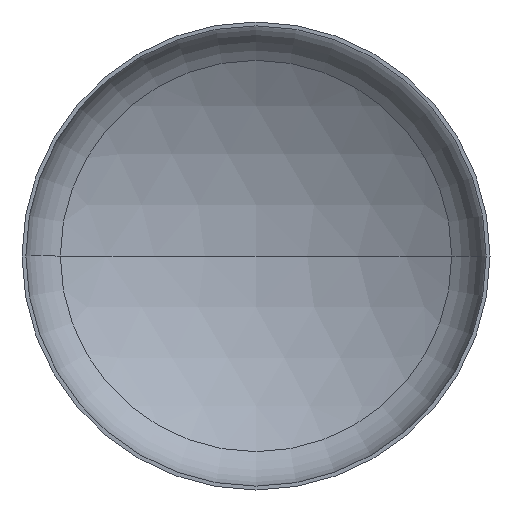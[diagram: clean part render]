
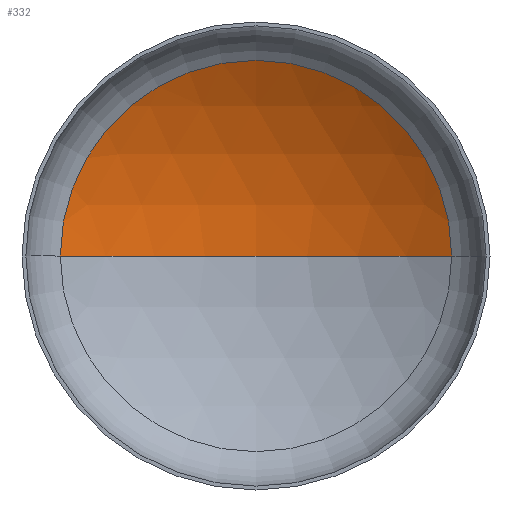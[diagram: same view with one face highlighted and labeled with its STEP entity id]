
A CAD part, front view. The second image highlights one B-rep face of the part: STEP entity #332.
In plain terms, the highlighted spherical face has radius 3600 mm.
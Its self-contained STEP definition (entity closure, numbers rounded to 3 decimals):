
#15 = AXIS2_PLACEMENT_3D ( 'NONE', #22, #167, #261 ) ;
#19 = ORIENTED_EDGE ( 'NONE', *, *, #130, .T. ) ;
#22 = CARTESIAN_POINT ( 'NONE',  ( 0., -2356.833, 0. ) ) ;
#23 = EDGE_LOOP ( 'NONE', ( #183, #73, #19 ) ) ;
#26 = DIRECTION ( 'NONE',  ( 0., -1., 0. ) ) ;
#47 = VERTEX_POINT ( 'NONE', #236 ) ;
#50 = AXIS2_PLACEMENT_3D ( 'NONE', #172, #126, #178 ) ;
#51 = AXIS2_PLACEMENT_3D ( 'NONE', #219, #260, #258 ) ;
#58 = AXIS2_PLACEMENT_3D ( 'NONE', #394, #26, #284 ) ;
#73 = ORIENTED_EDGE ( 'NONE', *, *, #156, .T. ) ;
#120 = VERTEX_POINT ( 'NONE', #207 ) ;
#121 = CARTESIAN_POINT ( 'NONE',  ( -1881.17, 712.564, 0. ) ) ;
#126 = DIRECTION ( 'NONE',  ( 0., 0., -1. ) ) ;
#130 = EDGE_CURVE ( 'NONE', #47, #161, #314, .T. ) ;
#156 = EDGE_CURVE ( 'NONE', #120, #47, #259, .T. ) ;
#161 = VERTEX_POINT ( 'NONE', #121 ) ;
#167 = DIRECTION ( 'NONE',  ( 0., 0., 1. ) ) ;
#172 = CARTESIAN_POINT ( 'NONE',  ( 0., -2356.833, 0. ) ) ;
#178 = DIRECTION ( 'NONE',  ( -1., 0., 0. ) ) ;
#183 = ORIENTED_EDGE ( 'NONE', *, *, #359, .F. ) ;
#207 = CARTESIAN_POINT ( 'NONE',  ( 0., 1243.167, 0. ) ) ;
#219 = CARTESIAN_POINT ( 'NONE',  ( 0., -2356.833, 0. ) ) ;
#236 = CARTESIAN_POINT ( 'NONE',  ( 1881.17, 712.564, 0. ) ) ;
#258 = DIRECTION ( 'NONE',  ( -1., 0., 0. ) ) ;
#259 = CIRCLE ( 'NONE', #51, 3600. ) ;
#260 = DIRECTION ( 'NONE',  ( 0., 0., -1. ) ) ;
#261 = DIRECTION ( 'NONE',  ( 1., 0., 0. ) ) ;
#284 = DIRECTION ( 'NONE',  ( 1., 0., 0. ) ) ;
#295 = FACE_OUTER_BOUND ( 'NONE', #23, .T. ) ;
#314 = CIRCLE ( 'NONE', #58, 1881.17 ) ;
#332 = ADVANCED_FACE ( 'NONE', ( #295 ), #358, .F. ) ;
#351 = CIRCLE ( 'NONE', #15, 3600. ) ;
#358 = SPHERICAL_SURFACE ( 'NONE', #50, 3600. ) ;
#359 = EDGE_CURVE ( 'NONE', #120, #161, #351, .T. ) ;
#394 = CARTESIAN_POINT ( 'NONE',  ( 0., 712.564, 0. ) ) ;
